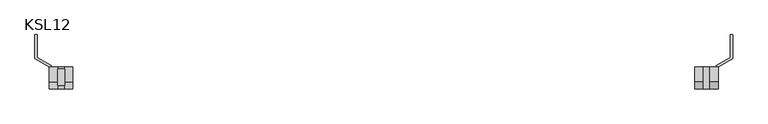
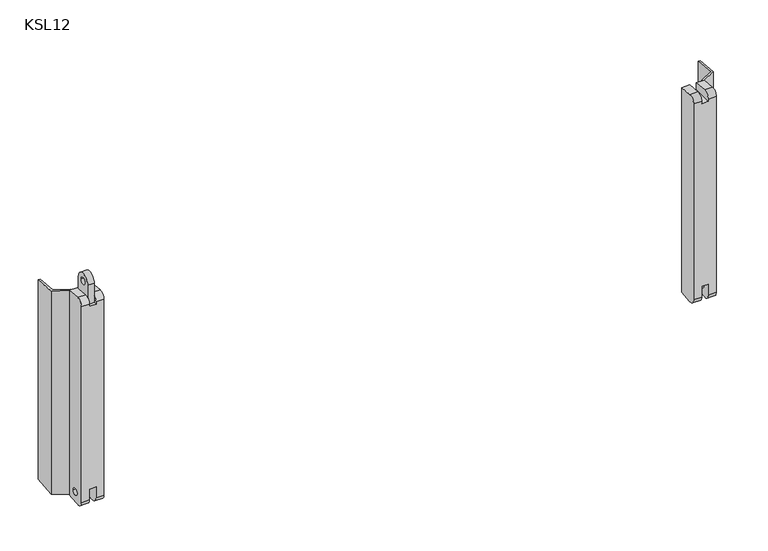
"""IFC4 building model written with IfcOpenShell, lengths in millimetres: proxy geometry, d&b SL-Series KSL : KSL12."""

from ifc_helpers import new_model, si_unit, point, frame, frame_2d, origin, place, context, project, spatial, polyline, circle_curve, trimmed, segment, composite_curve, outline, extrude, faceted_brep, source, transform, mapped, element, save
from ifc_brep_helpers import plane_surface, cylinder_surface, revolved_surface, advanced_brep


def ksl12_949d1a2c(model_context):
    return source(origin(), model_context, "Body", "SolidModel", [
        advanced_brep(
        [(967.5, -361.6244027, 156.4713875), (967.5, -351.8008881, 165.4336319), (967.5, -330.1244027, 163.4418427), (967.5, -330.1244027, 152.6966304), (967.5, -361.6244027, 152.6966304), (967.5, -330.1244027, -163.4418427), (967.5, -351.8008881, -165.4336319), (967.5, -361.6244027, -156.4713875), (967.5, -361.6244027, -139.1319786), (967.5, -330.1244027, -139.1319786), (967.5, -350.0744027, -149.0), (967.5, -339.6744027, -149.0), (979.5, -361.6244027, 156.4713875), (979.5, -361.6244027, -156.4713875), (979.5, -351.8008881, -165.4336319), (979.5, -330.1244027, -163.4418427), (979.5, -330.1244027, 163.4418427), (979.5, -351.8008881, 165.4336319), (979.5, -350.0744027, -149.0), (979.5, -339.6744027, -149.0), (957.5, -361.6244027, -139.1319786), (957.5, -330.1244027, -139.1319786), (957.5, -361.6244027, 152.6966304), (957.5, -330.1244027, 152.6966304), (945.5, -361.6244027, 156.4713875), (945.5, -351.8008881, 165.4336319), (945.5, -330.1244027, 163.4418427), (945.5, -330.1244027, -163.4418427), (945.5, -351.8008881, -165.4336319), (945.5, -361.6244027, -156.4713875), (957.5, -361.6244027, -156.4713875), (957.5, -351.8008881, -165.4336319), (957.5, -330.1244027, -163.4418427), (957.5, -330.1244027, 163.4418427), (957.5, -351.8008881, 165.4336319), (957.5, -361.6244027, 156.4713875)],
        [
            (0, 1, circle_curve(frame((967.5, -352.6244027, 156.4713875), z_axis=(-1.0, 0.0, 0.0), x_axis=(0.0, 1.0, 0.0)), 9.0)),
            (1, 2),
            (2, 3),
            (3, 4),
            (4, 0),
            (5, 6),
            (6, 7, circle_curve(frame((967.5, -352.6244027, -156.4713875), z_axis=(-1.0, 0.0, 0.0), x_axis=(0.0, 1.0, 0.0)), 9.0)),
            (7, 8),
            (8, 9),
            (9, 5),
            (10, 11, circle_curve(frame((967.5, -344.8744027, -149.0), z_axis=(1.0, 0.0, 0.0), x_axis=(0.0, 1.0, 0.0)), 5.2)),
            (11, 10, circle_curve(frame((967.5, -344.8744027, -149.0), z_axis=(1.0, 0.0, 0.0), x_axis=(0.0, 1.0, 0.0)), 5.2)),
            (12, 13),
            (13, 14, circle_curve(frame((979.5, -352.6244027, -156.4713875), z_axis=(1.0, 0.0, 0.0), x_axis=(0.0, 1.0, 0.0)), 9.0)),
            (14, 15),
            (15, 16),
            (16, 17),
            (17, 12, circle_curve(frame((979.5, -352.6244027, 156.4713875), z_axis=(1.0, 0.0, 0.0), x_axis=(0.0, 1.0, 0.0)), 9.0)),
            (18, 19, circle_curve(frame((979.5, -344.8744027, -149.0), z_axis=(-1.0, 0.0, 0.0), x_axis=(0.0, 1.0, 0.0)), 5.2)),
            (19, 18, circle_curve(frame((979.5, -344.8744027, -149.0), z_axis=(-1.0, 0.0, 0.0), x_axis=(0.0, 1.0, 0.0)), 5.2)),
            (8, 20),
            (20, 21),
            (21, 9),
            (22, 4),
            (3, 23),
            (23, 22),
            (24, 25, circle_curve(frame((945.5, -352.6244027, 156.4713875), z_axis=(-1.0, 0.0, 0.0), x_axis=(0.0, 1.0, 0.0)), 9.0)),
            (25, 26),
            (26, 27),
            (27, 28),
            (28, 29, circle_curve(frame((945.5, -352.6244027, -156.4713875), z_axis=(-1.0, 0.0, 0.0), x_axis=(0.0, 1.0, 0.0)), 9.0)),
            (29, 24),
            (30, 31, circle_curve(frame((957.5, -352.6244027, -156.4713875), z_axis=(1.0, 0.0, 0.0), x_axis=(0.0, 1.0, 0.0)), 9.0)),
            (31, 32),
            (32, 21),
            (20, 30),
            (33, 34),
            (34, 35, circle_curve(frame((957.5, -352.6244027, 156.4713875), z_axis=(1.0, 0.0, 0.0), x_axis=(0.0, 1.0, 0.0)), 9.0)),
            (35, 22),
            (23, 33),
            (24, 35),
            (34, 25),
            (33, 26),
            (27, 32),
            (31, 28),
            (30, 29),
            (0, 12),
            (17, 1),
            (16, 2),
            (15, 5),
            (14, 6),
            (13, 7),
            (10, 18),
            (19, 11),
        ],
        [
            plane_surface(frame((967.5, -343.6244027, 156.4713875), z_axis=(-1.0, 0.0, 0.0), x_axis=(0.0, 0.0, -1.0))),
            plane_surface(frame((979.5, -343.6244027, 156.4713875), z_axis=(1.0, 0.0, 0.0), x_axis=(0.0, 0.0, 1.0))),
            plane_surface(frame((957.5, -330.1244027, -139.1319786), z_axis=(0.0, 0.0, -1.0), x_axis=(1.0, 0.0, 0.0))),
            plane_surface(frame((957.5, -361.6244027, 152.6966304), z_axis=(0.0, 0.0, 1.0), x_axis=(1.0, 0.0, 0.0))),
            plane_surface(frame((945.5, -343.6244027, 156.4713875), z_axis=(-1.0, 0.0, 0.0), x_axis=(0.0, 0.0, -1.0))),
            plane_surface(frame((957.5, -343.6244027, 156.4713875), z_axis=(1.0, 0.0, 0.0), x_axis=(0.0, 0.0, 1.0))),
            cylinder_surface(frame((957.5, -352.6244027, 156.4713875), z_axis=(-1.0, 0.0, 0.0), x_axis=(0.0, 1.0, 0.0)), 9.0),
            plane_surface(frame((945.5, -351.8008881, 165.4336319), z_axis=(0.0, 0.0915016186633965, 0.9958049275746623), x_axis=(1.0, 0.0, 0.0))),
            plane_surface(frame((945.5, -330.1244027, -163.4418427), z_axis=(0.0, 0.09150161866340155, -0.9958049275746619), x_axis=(1.0, 0.0, 0.0))),
            cylinder_surface(frame((957.5, -352.6244027, -156.4713875), z_axis=(-1.0, 0.0, 0.0), x_axis=(0.0, 1.0, 0.0)), 9.0),
            cylinder_surface(frame((979.5, -352.6244027, 156.4713875), z_axis=(-1.0, 0.0, 0.0), x_axis=(0.0, 1.0, 0.0)), 9.0),
            plane_surface(frame((967.5, -351.8008881, 165.4336319), z_axis=(0.0, 0.0915016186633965, 0.9958049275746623), x_axis=(1.0, 0.0, 0.0))),
            plane_surface(frame((967.5, -330.1244027, 163.4418427), z_axis=(0.0, 1.0, 0.0), x_axis=(1.0, 0.0, 0.0))),
            plane_surface(frame((967.5, -330.1244027, -163.4418427), z_axis=(0.0, 0.09150161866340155, -0.9958049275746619), x_axis=(1.0, 0.0, 0.0))),
            cylinder_surface(frame((979.5, -352.6244027, -156.4713875), z_axis=(-1.0, 0.0, 0.0), x_axis=(0.0, 1.0, 0.0)), 9.0),
            plane_surface(frame((967.5, -361.6244027, -156.4713875), z_axis=(0.0, -1.0, 0.0), x_axis=(1.0, 0.0, 0.0))),
            revolved_surface(polyline([(979.5, -339.67440270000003, -149.0), (967.5, -339.67440270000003, -149.0)]), (500.0, -344.8744027, -149.0), (1.0, 0.0, 0.0)),
        ],
        [
            (0, [[1, 2, 3, 4, 5]]),
            (0, [[6, 7, 8, 9, 10], [11, 12]]),
            (1, [[13, 14, 15, 16, 17, 18], [19, 20]]),
            (2, [[21, 22, 23, -9]]),
            (3, [[24, -4, 25, 26]]),
            (4, [[27, 28, 29, 30, 31, 32]]),
            (5, [[33, 34, 35, -22, 36]]),
            (5, [[37, 38, 39, -26, 40]]),
            (6, [[-27, 41, -38, 42]]),
            (7, [[-28, -42, -37, 43]]),
            (8, [[-30, 44, -34, 45]]),
            (9, [[-31, -45, -33, 46]]),
            (10, [[-1, 47, -18, 48]]),
            (11, [[-2, -48, -17, 49]]),
            (12, [[-16, 50, -10, -23, -35, -44, -29, -43, -40, -25, -3, -49]]),
            (13, [[-6, -50, -15, 51]]),
            (14, [[-7, -51, -14, 52]]),
            (15, [[-13, -47, -5, -24, -39, -41, -32, -46, -36, -21, -8, -52]]),
            (16, [[-11, 53, -20, 54]]),
            (16, [[-12, -54, -19, -53]]),
        ],
    ),
        extrude(outline(composite_curve([segment(trimmed(circle_curve(frame_2d((-344.8744027, 183.1962861)), 12.0), [point((-356.8744027, 183.1962861))], [point((-332.8744027, 183.1962861))], False, "CARTESIAN"), True, "CONTINUOUS"), segment(polyline([(-332.8744027, 183.1962861), (-332.8744027, 152.6966304), (-356.8744027, 152.6966304), (-356.8744027, 183.1962861)]), True, "CONTINUOUS")], self_intersect=False), holes=[composite_curve([segment(trimmed(circle_curve(frame_2d((-344.8744027, 183.1962861)), 5.15), [point((-350.0244027, 183.1962861))], [point((-339.7244027, 183.1962861))], True, "CARTESIAN"), True, "CONTINUOUS"), segment(trimmed(circle_curve(frame_2d((-344.8744027, 183.1962861)), 5.15), [point((-339.7244027, 183.1962861))], [point((-350.0244027, 183.1962861))], True, "CARTESIAN"), True, "CONTINUOUS")], self_intersect=False)]), frame((32.5, 0.0, 0.0), z_axis=(1.0, 0.0, 0.0), x_axis=(0.0, 1.0, 0.0)), (0.0, 0.0, 1.0), 10.0),
        advanced_brep(
        [(32.5, -361.6244027, -156.4713875), (32.5, -351.8008881, -165.4336319), (32.5, -336.6244027, -164.0391088), (32.5, -330.1244027, -163.4418427), (32.5, -330.1244027, -139.1319786), (32.5, -361.6244027, -139.1319786), (32.5, -350.0744027, -149.0), (32.5, -339.6744027, -149.0), (32.5, -351.8008881, 165.4336319), (32.5, -361.6244027, 156.4713875), (32.5, -361.6244027, 152.6966304), (32.5, -330.1244027, 152.6966304), (32.5, -330.1244027, 163.4418427), (32.5, -336.6244027, 164.0391088), (20.5, -361.6244027, 156.4713875), (20.5, -351.8008881, 165.4336319), (20.5, -336.6244027, 164.0391088), (20.5, -330.1244027, 163.4418427), (20.5, -330.1244027, -163.4418427), (20.5, -336.6244027, -164.0391088), (20.5, -351.8008881, -165.4336319), (20.5, -361.6244027, -156.4713875), (20.5, -350.0744027, -149.0), (20.5, -339.6744027, -149.0), (42.5, -361.6244027, -139.1319786), (42.5, -361.6244027, -156.4713875), (54.5, -361.6244027, -156.4713875), (54.5, -361.6244027, 156.4713875), (42.5, -361.6244027, 156.4713875), (42.5, -361.6244027, 152.6966304), (42.5, -330.1244027, 152.6966304), (42.5, -330.1244027, 163.4418427), (54.5, -330.1244027, 163.4418427), (54.5, -330.1244027, -163.4418427), (42.5, -330.1244027, -163.4418427), (42.5, -330.1244027, -139.1319786), (54.5, -351.8008881, -165.4336319), (54.5, -351.8008881, 165.4336319), (42.5, -351.8008881, 165.4336319), (42.5, -351.8008881, -165.4336319)],
        [
            (0, 1, circle_curve(frame((32.5, -352.6244027, -156.4713875), z_axis=(1.0, 0.0, 0.0), x_axis=(0.0, 1.0, 0.0)), 9.0)),
            (1, 2),
            (2, 3),
            (3, 4),
            (4, 5),
            (5, 0),
            (6, 7, circle_curve(frame((32.5, -344.8744027, -149.0), z_axis=(-1.0, 0.0, 0.0), x_axis=(0.0, 1.0, 0.0)), 5.2)),
            (7, 6, circle_curve(frame((32.5, -344.8744027, -149.0), z_axis=(-1.0, 0.0, 0.0), x_axis=(0.0, 1.0, 0.0)), 5.2)),
            (8, 9, circle_curve(frame((32.5, -352.6244027, 156.4713875), z_axis=(1.0, 0.0, 0.0), x_axis=(0.0, 1.0, 0.0)), 9.0)),
            (9, 10),
            (10, 11),
            (11, 12),
            (12, 13),
            (13, 8),
            (14, 15, circle_curve(frame((20.5, -352.6244027, 156.4713875), z_axis=(-1.0, 0.0, 0.0), x_axis=(0.0, 1.0, 0.0)), 9.0)),
            (15, 16),
            (16, 17),
            (17, 18),
            (18, 19),
            (19, 20),
            (20, 21, circle_curve(frame((20.5, -352.6244027, -156.4713875), z_axis=(-1.0, 0.0, 0.0), x_axis=(0.0, 1.0, 0.0)), 9.0)),
            (21, 14),
            (22, 23, circle_curve(frame((20.5, -344.8744027, -149.0), z_axis=(1.0, 0.0, 0.0), x_axis=(0.0, 1.0, 0.0)), 5.2)),
            (23, 22, circle_curve(frame((20.5, -344.8744027, -149.0), z_axis=(1.0, 0.0, 0.0), x_axis=(0.0, 1.0, 0.0)), 5.2)),
            (21, 0),
            (5, 24),
            (24, 25),
            (25, 26),
            (26, 27),
            (27, 28),
            (28, 29),
            (29, 10),
            (9, 14),
            (17, 12),
            (11, 30),
            (30, 31),
            (31, 32),
            (32, 33),
            (33, 34),
            (34, 35),
            (35, 4),
            (3, 18),
            (6, 22),
            (23, 7),
            (35, 24),
            (29, 30),
            (26, 36, circle_curve(frame((54.5, -352.6244027, -156.4713875), z_axis=(1.0, 0.0, 0.0), x_axis=(0.0, 1.0, 0.0)), 9.0)),
            (36, 33),
            (32, 37),
            (37, 27, circle_curve(frame((54.5, -352.6244027, 156.4713875), z_axis=(1.0, 0.0, 0.0), x_axis=(0.0, 1.0, 0.0)), 9.0)),
            (28, 38, circle_curve(frame((42.5, -352.6244027, 156.4713875), z_axis=(-1.0, 0.0, 0.0), x_axis=(0.0, 1.0, 0.0)), 9.0)),
            (38, 31),
            (34, 39),
            (39, 25, circle_curve(frame((42.5, -352.6244027, -156.4713875), z_axis=(-1.0, 0.0, 0.0), x_axis=(0.0, 1.0, 0.0)), 9.0)),
            (20, 1),
            (15, 8),
            (39, 36),
            (38, 37),
        ],
        [
            plane_surface(frame((32.5, -361.6244027, -187.4718027), z_axis=(1.0, 0.0, 0.0), x_axis=(0.0, 0.0, -1.0))),
            plane_surface(frame((20.5, -361.6244027, -187.4718027), z_axis=(-1.0, 0.0, 0.0), x_axis=(0.0, 0.0, 1.0))),
            plane_surface(frame((32.5, -361.6244027, 156.4713875), z_axis=(0.0, -1.0, 0.0), x_axis=(-1.0, 0.0, 0.0))),
            plane_surface(frame((32.5, -330.1244027, -163.4418427), z_axis=(0.0, 1.0, 0.0), x_axis=(-1.0, 0.0, 0.0))),
            revolved_surface(polyline([(20.5, -339.67440270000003, -149.0), (32.5, -339.67440270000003, -149.0)]), (500.0, -344.8744027, -149.0), (-1.0, 0.0, 0.0)),
            plane_surface(frame((42.5, -361.6244027, -139.1319786), z_axis=(0.0, 0.0, -1.0), x_axis=(-1.0, 0.0, 0.0))),
            plane_surface(frame((42.5, -330.1244027, 152.6966304), z_axis=(0.0, 0.0, 1.0), x_axis=(-1.0, 0.0, 0.0))),
            plane_surface(frame((54.5, -361.6244027, -187.4718027), z_axis=(1.0, 0.0, 0.0), x_axis=(0.0, 0.0, -1.0))),
            plane_surface(frame((42.5, -361.6244027, -187.4718027), z_axis=(-1.0, 0.0, 0.0), x_axis=(0.0, 0.0, 1.0))),
            cylinder_surface(frame((20.5, -352.6244027, -156.4713875), z_axis=(1.0, 0.0, 0.0), x_axis=(0.0, 1.0, 0.0)), 9.0),
            plane_surface(frame((32.5, -351.8008881, -165.4336319), z_axis=(0.0, 0.09150161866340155, -0.9958049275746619), x_axis=(-1.0, 0.0, 0.0))),
            plane_surface(frame((32.5, -330.1244027, 163.4418427), z_axis=(0.0, 0.09150161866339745, 0.9958049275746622), x_axis=(-1.0, 0.0, 0.0))),
            cylinder_surface(frame((20.5, -352.6244027, 156.4713875), z_axis=(1.0, 0.0, 0.0), x_axis=(0.0, 1.0, 0.0)), 9.0),
            cylinder_surface(frame((42.5, -352.6244027, -156.4713875), z_axis=(1.0, 0.0, 0.0), x_axis=(0.0, 1.0, 0.0)), 9.0),
            plane_surface(frame((54.5, -351.8008881, -165.4336319), z_axis=(0.0, 0.09150161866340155, -0.9958049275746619), x_axis=(-1.0, 0.0, 0.0))),
            plane_surface(frame((54.5, -330.1244027, 163.4418427), z_axis=(0.0, 0.0915016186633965, 0.9958049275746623), x_axis=(-1.0, 0.0, 0.0))),
            cylinder_surface(frame((42.5, -352.6244027, 156.4713875), z_axis=(1.0, 0.0, 0.0), x_axis=(0.0, 1.0, 0.0)), 9.0),
        ],
        [
            (0, [[1, 2, 3, 4, 5, 6], [7, 8]]),
            (0, [[9, 10, 11, 12, 13, 14]]),
            (1, [[15, 16, 17, 18, 19, 20, 21, 22], [23, 24]]),
            (2, [[-22, 25, -6, 26, 27, 28, 29, 30, 31, 32, -10, 33]]),
            (3, [[-18, 34, -12, 35, 36, 37, 38, 39, 40, 41, -4, 42]]),
            (4, [[-7, 43, -24, 44]]),
            (4, [[-8, -44, -23, -43]]),
            (5, [[-26, -5, -41, 45]]),
            (6, [[-32, 46, -35, -11]]),
            (7, [[-29, 47, 48, -38, 49, 50]]),
            (8, [[51, 52, -36, -46, -31]]),
            (8, [[53, 54, -27, -45, -40]]),
            (9, [[-1, -25, -21, 55]]),
            (10, [[-42, -3, -2, -55, -20, -19]]),
            (11, [[-34, -17, -16, 56, -14, -13]]),
            (12, [[-9, -56, -15, -33]]),
            (13, [[-47, -28, -54, 57]]),
            (14, [[-48, -57, -53, -39]]),
            (15, [[-49, -37, -52, 58]]),
            (16, [[-50, -58, -51, -30]]),
        ],
    ),
        faceted_brep([(3.0, -283.8744027, 159.1920647), (3.0, -283.8744027, -159.1920647), (0.0, -283.8744027, -159.1920647), (0.0, -283.8744027, 159.1920647), (0.0, -318.2887222, -162.3542964), (0.0, -318.2887222, 162.3542964), (20.5, -330.1244027, -163.4418427), (20.5, -330.1244027, 163.4418427), (23.5, -330.1244027, -163.4418427), (23.5, -330.1244027, 163.4418427), (23.5, -328.3923519, -163.2826896), (23.5, -328.3923519, 163.2826896), (3.0, -316.5566714, -162.1951433), (3.0, -316.5566714, 162.1951433)], [[[0, 1, 2, 3]], [[3, 2, 4, 5]], [[5, 4, 6, 7]], [[7, 6, 8, 9]], [[9, 8, 10, 11]], [[11, 10, 12, 13]], [[1, 0, 13, 12]], [[0, 3, 5, 7, 9, 11, 13]], [[2, 1, 12, 10, 8, 6, 4]]]),
        faceted_brep([(997.0, -283.8744027, 159.1920647), (997.0, -283.8744027, -159.1920647), (997.0, -316.5566714, -162.1951433), (997.0, -316.5566714, 162.1951433), (976.5, -328.3923519, -163.2826896), (976.5, -328.3923519, 163.2826896), (976.5, -330.1244027, -163.4418427), (976.5, -330.1244027, 163.4418427), (979.5, -330.1244027, -163.4418427), (979.5, -330.1244027, 163.4418427), (1000.0, -318.2887222, -162.3542964), (1000.0, -318.2887222, 162.3542964), (1000.0, -283.8744027, -159.1920647), (1000.0, -283.8744027, 159.1920647)], [[[0, 1, 2, 3]], [[3, 2, 4, 5]], [[5, 4, 6, 7]], [[7, 6, 8, 9]], [[9, 8, 10, 11]], [[11, 10, 12, 13]], [[1, 0, 13, 12]], [[0, 3, 5, 7, 9, 11, 13]], [[2, 1, 12, 10, 8, 6, 4]]]),
    ])


if __name__ == "__main__":
    model = new_model("IFC4")
    model_context = context("Model", 3, world=origin())
    ifc_project = project(units=[si_unit("LENGTHUNIT", "METRE", prefix="MILLI")], contexts=[model_context])
    site = spatial("IfcSite", under=ifc_project)
    building = spatial("IfcBuilding", under=site)
    placement = place(None, origin())
    ksl12_shape = ksl12_949d1a2c(model_context)
    element("IfcBuildingElementProxy", 1, Name="d&b SL-Series KSL : KSL12", ObjectType="d&b SL-Series KSL : KSL12", at=placement, inside=building, context=model_context, shape_type="MappedRepresentation", body=[
        mapped(ksl12_shape, transform((0.0, 0.0, 0.0), x_axis=(1.0, 0.0, 0.0), y_axis=(0.0, 1.0, 0.0), z_axis=(0.0, 0.0, 1.0))),
    ])
    save(model, "model.ifc")
